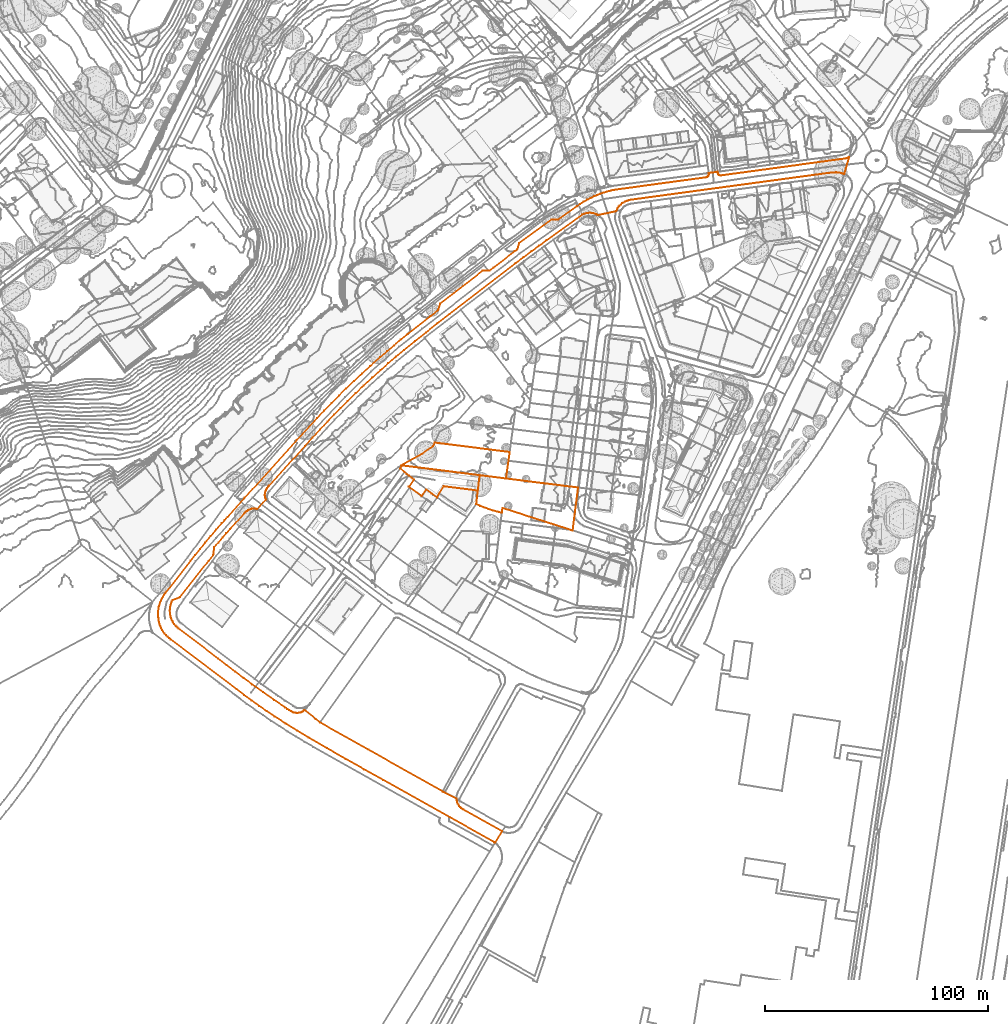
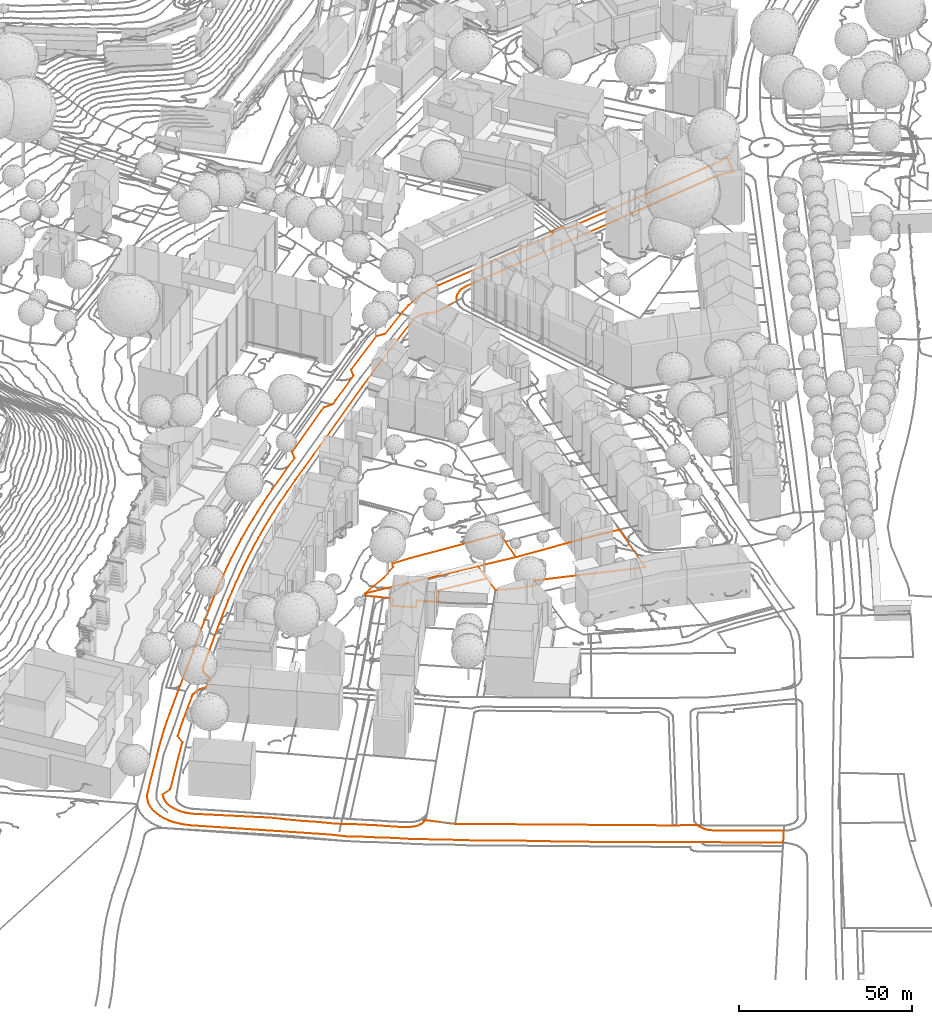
# Not in any storey, part 119 of 494: 4 proxies.
"""IFC2X3 model written with IfcOpenShell, lengths in metres."""

from ifc_helpers import new_model, entity, si_unit, frame, origin_with_axes, place, context, subcontext, project, element, save


model = new_model("IFC2X3")

# Units and contexts
model_context = context("Model", 3, precision=1e-05, world=origin_with_axes())
body_context = subcontext(model_context, "Body", "Model", "MODEL_VIEW")
ifc_project = project(units=[si_unit("AREAUNIT", "SQUARE_METRE"), si_unit("LENGTHUNIT", "METRE")], contexts=[model_context])

# Proxies
proxy_1_placement = place(None, frame((371.2307320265, 51.8597160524, 502.4108303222), z_axis=(0.0, 0.0, 1.0), x_axis=(1.0, 0.0, 0.0)))
element("IfcBuildingElementProxy", 1, at=proxy_1_placement, Name="Roads Outline 120", ObjectType="NOTDEFINED", context=body_context, shape_type="GeometricCurveSet", body=[
    entity("IfcGeometricCurveSet", [entity("IfcPolyline", [entity("IfcCartesianPoint", [0.0, 0.0, 0.0]), entity("IfcCartesianPoint", [0.8710000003, 1.3130000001, -0.1217882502]), entity("IfcCartesianPoint", [0.9700000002, 1.301, -0.1211399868]), entity("IfcCartesianPoint", [1.3140000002, 1.2579999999, -0.1175275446]), entity("IfcCartesianPoint", [4.7250000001, 0.8289999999, -0.1139191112]), entity("IfcCartesianPoint", [35.6830000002, -3.071, -0.1133765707]), entity("IfcCartesianPoint", [34.8500000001, -9.9539999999, 0.003727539]), entity("IfcCartesianPoint", [32.8370000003, -9.7009999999, 0.0573204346]), entity("IfcCartesianPoint", [19.5490000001, -8.0319999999, -0.1189635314]), entity("IfcCartesianPoint", [17.4110000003, -11.2509999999, -0.1468187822]), entity("IfcCartesianPoint", [16.5780000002, -13.1170000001, -0.046251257]), entity("IfcCartesianPoint", [16.5130000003, -13.071, -0.0419122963]), entity("IfcCartesianPoint", [14.0820000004, -11.263, 0.0039351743]), entity("IfcCartesianPoint", [11.6690000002, -9.4310000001, 0.0304222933]), entity("IfcCartesianPoint", [9.6050000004, -12.3259999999, 0.0284235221]), entity("IfcCartesianPoint", [3.9100000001, -8.246, 0.1374620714]), entity("IfcCartesianPoint", [6.1600000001, -5.1040000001, 0.0393766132]), entity("IfcCartesianPoint", [5.037, -4.196, 0.0210365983]), entity("IfcCartesianPoint", [3.9180000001, -3.2830000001, 0.031877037]), entity("IfcCartesianPoint", [3.8680000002, -3.2420000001, 0.0338036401]), entity("IfcCartesianPoint", [3.8420000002, -3.22, 0.0348714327]), entity("IfcCartesianPoint", [2.8930000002, -2.436, 0.0925608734]), entity("IfcCartesianPoint", [1.9450000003, -1.6510000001, 0.0763706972]), entity("IfcCartesianPoint", [0.0, 0.0, 0.0])])]),
])
proxy_2_placement = place(None, frame((262.6497320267, -13.3092839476, 503.9024707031), z_axis=(0.0, 0.0, 1.0), x_axis=(1.0, 0.0, 0.0)))
element("IfcBuildingElementProxy", 2, at=proxy_2_placement, Name="Roads Outline 130", ObjectType="NOTDEFINED", context=body_context, shape_type="GeometricCurveSet", body=[
    entity("IfcGeometricCurveSet", [entity("IfcPolyline", [entity("IfcCartesianPoint", [0.5389999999, -4.061, -0.0057064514]), entity("IfcCartesianPoint", [0.2990000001, -3.0619999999, -0.0031480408]), entity("IfcCartesianPoint", [0.1290000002, -2.0489999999, -0.0013581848]), entity("IfcCartesianPoint", [0.0290000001, -1.0260000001, -0.0003053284]), entity("IfcCartesianPoint", [0.0, 0.0, 0.0]), entity("IfcCartesianPoint", [0.0419999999, 1.027, -0.0004421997]), entity("IfcCartesianPoint", [0.1540000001, 2.048, -0.0016213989]), entity("IfcCartesianPoint", [0.3360000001, 3.0589999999, -0.0035375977]), entity("IfcCartesianPoint", [0.588, 4.0549999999, -0.006362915]), entity("IfcCartesianPoint", [0.9019999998, 5.0149999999, -0.0105696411]), entity("IfcCartesianPoint", [1.2799999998, 5.9510000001, -0.0156337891]), entity("IfcCartesianPoint", [1.7209999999, 6.8600000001, -0.0074827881]), entity("IfcCartesianPoint", [2.2220000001, 7.737, 0.0223007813]), entity("IfcCartesianPoint", [2.7820000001, 8.578, 0.0317250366]), entity("IfcCartesianPoint", [3.3969999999, 9.379, 0.0104980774]), entity("IfcCartesianPoint", [14.6850000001, 23.824, -0.2887487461]), entity("IfcCartesianPoint", [16.7069999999, 26.3959999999, -0.312572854]), entity("IfcCartesianPoint", [18.753, 28.95, -0.3337791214]), entity("IfcCartesianPoint", [21.125, 31.8629999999, -0.3668677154]), entity("IfcCartesianPoint", [23.537, 34.743, -0.389519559]), entity("IfcCartesianPoint", [26.0490000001, 37.659, -0.404293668]), entity("IfcCartesianPoint", [28.6000000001, 40.54, -0.4300851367]), entity("IfcCartesianPoint", [29.8790000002, 41.9780000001, -0.4436543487]), entity("IfcCartesianPoint", [31.1639999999, 43.412, -0.4517685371]), entity("IfcCartesianPoint", [38.8859999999, 51.9820000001, -0.5570350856]), entity("IfcCartesianPoint", [62.2439999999, 77.95, -0.9462583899]), entity("IfcCartesianPoint", [71.3479999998, 87.804, -1.047282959]), entity("IfcCartesianPoint", [74.5600000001, 91.182, -1.0667415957]), entity("IfcCartesianPoint", [77.8110000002, 94.5220000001, -1.1188040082]), entity("IfcCartesianPoint", [81.1000000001, 97.8260000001, -1.1458437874]), entity("IfcCartesianPoint", [84.4270000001, 101.091, -1.1758217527]), entity("IfcCartesianPoint", [87.9249999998, 104.4450000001, -1.2241489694]), entity("IfcCartesianPoint", [91.463, 107.7579999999, -1.2389045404]), entity("IfcCartesianPoint", [95.04, 111.0279999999, -1.2677067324]), entity("IfcCartesianPoint", [99.5610000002, 115.023, -1.3373171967]), entity("IfcCartesianPoint", [102.648, 117.71, -1.4421208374]), entity("IfcCartesianPoint", [105.77, 120.3559999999, -1.4389836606]), entity("IfcCartesianPoint", [108.8709999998, 122.916, -1.4814820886]), entity("IfcCartesianPoint", [112.0049999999, 125.4369999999, -1.5095543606]), entity("IfcCartesianPoint", [122.23, 133.4990000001, -1.6741860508]), entity("IfcCartesianPoint", [125.645, 136.1599999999, -1.7210046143]), entity("IfcCartesianPoint", [126.54, 139.1200000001, -1.6750229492]), entity("IfcCartesianPoint", [145.6660000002, 153.892, -1.5919867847]), entity("IfcCartesianPoint", [148.3160000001, 153.9480000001, -1.6231636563]), entity("IfcCartesianPoint", [148.6979999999, 153.966, -1.6299466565]), entity("IfcCartesianPoint", [150.4720000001, 155.3049999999, -1.6230563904]), entity("IfcCartesianPoint", [159.9980000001, 162.5600000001, -1.4778877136]), entity("IfcCartesianPoint", [161.1209999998, 163.4099999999, -1.4672502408]), entity("IfcCartesianPoint", [162.0010000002, 166.3049999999, -1.4271675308]), entity("IfcCartesianPoint", [176.5389999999, 176.8570000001, -1.1856304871]), entity("IfcCartesianPoint", [179.5350000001, 176.8149999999, -1.2609590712]), entity("IfcCartesianPoint", [187.8029999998, 182.727, -1.2084698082]), entity("IfcCartesianPoint", [187.9010000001, 182.798, -1.207948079]), entity("IfcCartesianPoint", [189.3670000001, 183.814, -1.205377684]), entity("IfcCartesianPoint", [190.875, 184.7679999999, -1.1448787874]), entity("IfcCartesianPoint", [192.4210000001, 185.6580000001, -1.1014199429]), entity("IfcCartesianPoint", [194.003, 186.4820000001, -1.1207409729]), entity("IfcCartesianPoint", [195.6179999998, 187.24, -1.0789103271]), entity("IfcCartesianPoint", [197.0150000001, 187.8389999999, -1.0614479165]), entity("IfcCartesianPoint", [198.432, 188.3859999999, -0.9990072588]), entity("IfcCartesianPoint", [199.8679999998, 188.8810000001, -1.0210383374]), entity("IfcCartesianPoint", [201.3220000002, 189.324, -1.0568580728]), entity("IfcCartesianPoint", [202.5920000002, 189.6629999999, -1.0988468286]), entity("IfcCartesianPoint", [203.8730000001, 189.963, -1.1604785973]), entity("IfcCartesianPoint", [205.162, 190.2220000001, -1.1974686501]), entity("IfcCartesianPoint", [245.406, 195.6780000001, -1.3970805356]), entity("IfcCartesianPoint", [245.679, 195.7239999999, -1.3938794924]), entity("IfcCartesianPoint", [245.9479999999, 195.787, -1.3933901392]), entity("IfcCartesianPoint", [246.2420000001, 195.875, -1.3944380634]), entity("IfcCartesianPoint", [246.5290000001, 195.983, -1.3974448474]), entity("IfcCartesianPoint", [246.7560000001, 196.24, -1.4018073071]), entity("IfcCartesianPoint", [246.9300000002, 196.5360000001, -1.4024283]), entity("IfcCartesianPoint", [247.0439999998, 196.8589999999, -1.401013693]), entity("IfcCartesianPoint", [247.0899999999, 197.1300000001, -1.3993700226]), entity("IfcCartesianPoint", [247.094, 197.4040000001, -1.3993498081]), entity("IfcCartesianPoint", [247.0559999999, 197.676, -1.4012136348]), entity("IfcCartesianPoint", [249.9249999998, 198.0619999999, -1.3964670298]), entity("IfcCartesianPoint", [251.04, 198.2120000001, -1.4066033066]), entity("IfcCartesianPoint", [251.0789999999, 197.8629999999, -1.4155004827]), entity("IfcCartesianPoint", [251.105, 197.6089999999, -1.4106553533]), entity("IfcCartesianPoint", [251.1809999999, 197.365, -1.4068772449]), entity("IfcCartesianPoint", [251.304, 197.1410000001, -1.4055264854]), entity("IfcCartesianPoint", [251.4700000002, 196.9469999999, -1.4057552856]), entity("IfcCartesianPoint", [251.7110000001, 196.7649999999, -1.3981821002]), entity("IfcCartesianPoint", [251.9890000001, 196.6459999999, -1.3943791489]), entity("IfcCartesianPoint", [252.287, 196.5959999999, -1.3949076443]), entity("IfcCartesianPoint", [252.588, 196.6170000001, -1.3989694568]), entity("IfcCartesianPoint", [307.77, 204.1310000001, -1.5309644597]), entity("IfcCartesianPoint", [308.358, 204.2379999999, -1.5325805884]), entity("IfcCartesianPoint", [308.9339999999, 204.399, -1.5214086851]), entity("IfcCartesianPoint", [309.4920000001, 204.612, -1.5099840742]), entity("IfcCartesianPoint", [310.0290000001, 204.875, -1.5042742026]), entity("IfcCartesianPoint", [310.02, 204.8459999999, -1.5038891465]), entity("IfcCartesianPoint", [308.4300000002, 199.466, -1.4654980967]), entity("IfcCartesianPoint", [307.7850000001, 197.2849999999, -1.4686628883]), entity("IfcCartesianPoint", [307.0890000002, 197.5290000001, -1.4753664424]), entity("IfcCartesianPoint", [306.378, 197.723, -1.4743528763]), entity("IfcCartesianPoint", [305.605, 197.8729999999, -1.4355913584]), entity("IfcCartesianPoint", [304.8229999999, 197.9620000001, -1.43273974]), entity("IfcCartesianPoint", [304.0359999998, 197.9909999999, -1.4225772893]), entity("IfcCartesianPoint", [302.9619999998, 197.9369999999, -1.411702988]), entity("IfcCartesianPoint", [301.889, 197.8540000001, -1.4042682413]), entity("IfcCartesianPoint", [300.9449999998, 197.754, -1.390009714]), entity("IfcCartesianPoint", [300.0040000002, 197.632, -1.374994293]), entity("IfcCartesianPoint", [212.2179999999, 185.7109999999, -1.1163374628]), entity("IfcCartesianPoint", [211.4890000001, 185.601, -1.1201888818]), entity("IfcCartesianPoint", [210.7740000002, 185.425, -1.1268597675]), entity("IfcCartesianPoint", [210.0780000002, 185.1839999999, -1.1307669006]), entity("IfcCartesianPoint", [209.4070000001, 184.879, -1.1339074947]), entity("IfcCartesianPoint", [208.767, 184.514, -1.1492976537]), entity("IfcCartesianPoint", [208.1639999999, 184.091, -1.1642729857]), entity("IfcCartesianPoint", [207.602, 183.6140000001, -1.1762166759]), entity("IfcCartesianPoint", [207.0860000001, 183.088, -1.2022929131]), entity("IfcCartesianPoint", [206.622, 182.5160000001, -1.2117000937]), entity("IfcCartesianPoint", [206.2119999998, 181.9040000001, -1.2202164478]), entity("IfcCartesianPoint", [205.8599999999, 181.257, -1.2280841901]), entity("IfcCartesianPoint", [205.5690000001, 180.5800000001, -1.2301342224]), entity("IfcCartesianPoint", [197.3459999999, 178.8189999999, -1.2309603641]), entity("IfcCartesianPoint", [197.2319999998, 178.8859999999, -1.23833654]), entity("IfcCartesianPoint", [196.9049999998, 179.064, -1.2546378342]), entity("IfcCartesianPoint", [196.5690000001, 179.2239999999, -1.2700916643]), entity("IfcCartesianPoint", [195.8799999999, 179.49, -1.3008048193]), entity("IfcCartesianPoint", [195.1680000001, 179.683, -1.2893156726]), entity("IfcCartesianPoint", [194.4399999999, 179.801, -1.2727682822]), entity("IfcCartesianPoint", [193.7030000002, 179.844, -1.2947818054]), entity("IfcCartesianPoint", [192.9649999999, 179.811, -1.3172970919]), entity("IfcCartesianPoint", [192.236, 179.7010000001, -1.2876391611]), entity("IfcCartesianPoint", [191.5210000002, 179.517, -1.2058709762]), entity("IfcCartesianPoint", [190.8289999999, 179.2609999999, -1.239208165]), entity("IfcCartesianPoint", [190.1669999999, 178.9339999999, -1.2377140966]), entity("IfcCartesianPoint", [174.2829999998, 167.5020000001, -1.3594583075]), entity("IfcCartesianPoint", [170.9100000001, 165.051, -1.3985934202]), entity("IfcCartesianPoint", [167.5460000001, 162.5859999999, -1.4843606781]), entity("IfcCartesianPoint", [163.946, 159.9210000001, -1.5736200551]), entity("IfcCartesianPoint", [160.3590000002, 157.2390000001, -1.6522851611]), entity("IfcCartesianPoint", [130.8420000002, 134.5, -1.7581777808]), entity("IfcCartesianPoint", [125.4679999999, 130.3670000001, -1.6538557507]), entity("IfcCartesianPoint", [120.1299999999, 126.1880000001, -1.5851305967]), entity("IfcCartesianPoint", [115.2439999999, 122.2949999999, -1.5386686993]), entity("IfcCartesianPoint", [110.3909999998, 118.362, -1.4379433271]), entity("IfcCartesianPoint", [106.8119999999, 115.3700000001, -1.434979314]), entity("IfcCartesianPoint", [103.2710000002, 112.334, -1.358463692]), entity("IfcCartesianPoint", [99.7680000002, 109.253, -1.3120700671]), entity("IfcCartesianPoint", [95.9840000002, 105.8370000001, -1.2684722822]), entity("IfcCartesianPoint", [92.247, 102.3700000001, -1.2416182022]), entity("IfcCartesianPoint", [88.5580000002, 98.8530000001, -1.1760768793]), entity("IfcCartesianPoint", [84.9819999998, 95.3670000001, -1.1499269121]), entity("IfcCartesianPoint", [81.952, 92.331, -1.1150658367]), entity("IfcCartesianPoint", [78.9500000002, 89.2679999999, -1.0646633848]), entity("IfcCartesianPoint", [75.9759999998, 86.1780000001, -1.0406971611]), entity("IfcCartesianPoint", [72.5720000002, 82.5689999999, -0.9759327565]), entity("IfcCartesianPoint", [69.2059999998, 78.9240000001, -0.9529725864]), entity("IfcCartesianPoint", [65.878, 75.2439999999, -0.8854043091]), entity("IfcCartesianPoint", [49.8810000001, 57.476, -0.6916893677]), entity("IfcCartesianPoint", [49.4330000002, 56.95, -0.7016132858]), entity("IfcCartesianPoint", [49.0150000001, 56.4010000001, -0.7040164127]), entity("IfcCartesianPoint", [48.6260000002, 55.8300000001, -0.6960271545]), entity("IfcCartesianPoint", [48.3689999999, 55.3770000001, -0.6966297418]), entity("IfcCartesianPoint", [48.162, 54.898, -0.6920591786]), entity("IfcCartesianPoint", [48.0090000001, 54.3999999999, -0.6790054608]), entity("IfcCartesianPoint", [47.9109999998, 53.888, -0.6686703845]), entity("IfcCartesianPoint", [47.8670000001, 53.2890000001, -0.6710667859]), entity("IfcCartesianPoint", [47.8999999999, 52.6899999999, -0.6684532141]), entity("IfcCartesianPoint", [48.0070000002, 52.0989999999, -0.661716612]), entity("IfcCartesianPoint", [48.1499999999, 51.6669999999, -0.6625929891]), entity("IfcCartesianPoint", [48.3560000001, 51.2609999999, -0.6663236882]), entity("IfcCartesianPoint", [44.5070000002, 46.9510000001, -0.4791822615]), entity("IfcCartesianPoint", [44.1630000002, 47.03, -0.471758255]), entity("IfcCartesianPoint", [43.8139999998, 47.088, -0.461321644]), entity("IfcCartesianPoint", [43.2769999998, 47.132, -0.4736802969]), entity("IfcCartesianPoint", [42.7379999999, 47.1240000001, -0.5140459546]), entity("IfcCartesianPoint", [42.2030000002, 47.0649999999, -0.5506632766]), entity("IfcCartesianPoint", [41.6749999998, 46.9550000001, -0.5837705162]), entity("IfcCartesianPoint", [41.0580000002, 46.7320000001, -0.5934661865]), entity("IfcCartesianPoint", [40.4670000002, 46.449, -0.590524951]), entity("IfcCartesianPoint", [39.9070000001, 46.108, -0.549899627]), entity("IfcCartesianPoint", [39.4410000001, 45.76, -0.5001099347]), entity("IfcCartesianPoint", [39.0070000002, 45.3729999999, -0.4728199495]), entity("IfcCartesianPoint", [38.6090000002, 44.9480000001, -0.4723971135]), entity("IfcCartesianPoint", [32.2650000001, 37.919, -0.3886627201]), entity("IfcCartesianPoint", [30.5890000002, 36.0560000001, -0.3865621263]), entity("IfcCartesianPoint", [28.932, 34.175, -0.3755623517]), entity("IfcCartesianPoint", [27.057, 31.9990000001, -0.3719368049]), entity("IfcCartesianPoint", [25.2089999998, 29.801, -0.3797983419]), entity("IfcCartesianPoint", [24.7680000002, 26.3870000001, -0.3642270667]), entity("IfcCartesianPoint", [22.6290000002, 23.7080000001, -0.3316242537]), entity("IfcCartesianPoint", [9.767, 7.385, -0.2027637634]), entity("IfcCartesianPoint", [6.5219999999, 6.135, -0.1378643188]), entity("IfcCartesianPoint", [6.1519999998, 5.3899999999, -0.1272841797]), entity("IfcCartesianPoint", [5.844, 4.6170000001, -0.1184769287]), entity("IfcCartesianPoint", [5.6009999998, 3.821, -0.1115283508]), entity("IfcCartesianPoint", [5.4240000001, 3.007, -0.1022902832]), entity("IfcCartesianPoint", [5.3149999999, 2.183, -0.0947958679]), entity("IfcCartesianPoint", [5.273, 1.351, -0.0919081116]), entity("IfcCartesianPoint", [5.301, 0.52, -0.0938332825]), entity("IfcCartesianPoint", [5.3960000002, -0.307, -0.1003651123]), entity("IfcCartesianPoint", [5.5550000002, -1.1000000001, -0.1102129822]), entity("IfcCartesianPoint", [5.7769999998, -1.8770000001, -0.1165610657]), entity("IfcCartesianPoint", [6.0610000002, -2.6340000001, -0.1246820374]), entity("IfcCartesianPoint", [6.4040000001, -3.3659999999, -0.1344901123]), entity("IfcCartesianPoint", [6.8050000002, -4.068, -0.1387966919]), entity("IfcCartesianPoint", [7.2609999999, -4.736, -0.1400491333]), entity("IfcCartesianPoint", [7.7689999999, -5.365, -0.1446363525]), entity("IfcCartesianPoint", [8.2059999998, -5.834, -0.1516245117]), entity("IfcCartesianPoint", [8.673, -6.274, -0.161880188]), entity("IfcCartesianPoint", [9.1669999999, -6.682, -0.1792775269]), entity("IfcCartesianPoint", [27.0019999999, -20.2, 0.4338944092]), entity("IfcCartesianPoint", [30.7650000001, -23.1359999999, 0.2691181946]), entity("IfcCartesianPoint", [34.5559999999, -26.0360000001, 0.1574472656]), entity("IfcCartesianPoint", [38.3760000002, -28.8999999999, 0.1595686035]), entity("IfcCartesianPoint", [42.2220000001, -31.726, -0.0705377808]), entity("IfcCartesianPoint", [47.1069999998, -35.233, 0.1522293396]), entity("IfcCartesianPoint", [52.0359999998, -38.679, 0.1451571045]), entity("IfcCartesianPoint", [57.0060000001, -42.064, -0.076173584]), entity("IfcCartesianPoint", [57.9389999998, -42.6799999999, -0.0904303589]), entity("IfcCartesianPoint", [58.8859999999, -43.2749999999, -0.1092797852]), entity("IfcCartesianPoint", [59.574, -43.6880000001, -0.113998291]), entity("IfcCartesianPoint", [60.2689999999, -44.0900000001, -0.084644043]), entity("IfcCartesianPoint", [60.8459999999, -44.2849999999, -0.0629230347]), entity("IfcCartesianPoint", [61.4410000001, -44.4140000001, -0.0427495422]), entity("IfcCartesianPoint", [62.0460000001, -44.476, -0.0716689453]), entity("IfcCartesianPoint", [62.6549999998, -44.4709999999, -0.1064934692]), entity("IfcCartesianPoint", [63.2590000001, -44.398, -0.1310825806]), entity("IfcCartesianPoint", [63.852, -44.2579999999, -0.1253037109]), entity("IfcCartesianPoint", [64.3730000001, -44.075, -0.0984014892]), entity("IfcCartesianPoint", [64.8730000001, -43.8400000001, -0.0760159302]), entity("IfcCartesianPoint", [65.3470000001, -43.5560000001, -0.0562562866]), entity("IfcCartesianPoint", [65.79, -43.2250000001, -0.0542199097]), entity("IfcCartesianPoint", [70.727, -47.2690000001, -0.3901565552]), entity("IfcCartesianPoint", [72.6000000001, -48.804, -0.419498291]), entity("IfcCartesianPoint", [94.3870000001, -61.054, -0.8251239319]), entity("IfcCartesianPoint", [127.5630000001, -79.7039999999, -1.4666577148]), entity("IfcCartesianPoint", [127.969, -79.915, -1.4717128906]), entity("IfcCartesianPoint", [133.898, -83.0020000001, -1.5454748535]), entity("IfcCartesianPoint", [133.9479999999, -83.4979999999, -1.5460974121]), entity("IfcCartesianPoint", [134.0380000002, -83.9890000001, -1.5472180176]), entity("IfcCartesianPoint", [134.1699999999, -84.47, -1.5488615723]), entity("IfcCartesianPoint", [134.409, -85.0959999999, -1.5518374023]), entity("IfcCartesianPoint", [134.7170000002, -85.6910000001, -1.5556723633]), entity("IfcCartesianPoint", [135.0899999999, -86.2479999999, -1.5603166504]), entity("IfcCartesianPoint", [135.5219999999, -86.7590000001, -1.5656955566]), entity("IfcCartesianPoint", [136.0099999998, -87.219, -1.571757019]), entity("IfcCartesianPoint", [136.5449999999, -87.621, -1.5784025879]), entity("IfcCartesianPoint", [137.1230000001, -87.9609999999, -1.5855993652]), entity("IfcCartesianPoint", [154.372, -97.6070000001, -1.7628184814]), entity("IfcCartesianPoint", [151.2000000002, -102.7220000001, -1.8722419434]), entity("IfcCartesianPoint", [150.9610000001, -102.577, -1.8752542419]), entity("IfcCartesianPoint", [150.7140000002, -102.4450000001, -1.8783673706]), entity("IfcCartesianPoint", [130.7390000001, -91.253, -1.5061721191]), entity("IfcCartesianPoint", [100.9899999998, -74.55, -1.0760565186]), entity("IfcCartesianPoint", [92.517, -69.8729999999, -0.7815148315]), entity("IfcCartesianPoint", [84.0789999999, -65.1329999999, -0.4512685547]), entity("IfcCartesianPoint", [75.7850000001, -60.3910000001, -0.4832256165]), entity("IfcCartesianPoint", [67.5279999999, -55.5870000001, -0.1434680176]), entity("IfcCartesianPoint", [62.3900000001, -52.469, -0.0928330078]), entity("IfcCartesianPoint", [57.2850000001, -49.297, -0.0781489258]), entity("IfcCartesianPoint", [52.2140000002, -46.071, 0.1479872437]), entity("IfcCartesianPoint", [48.736, -43.7290000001, 0.1020310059]), entity("IfcCartesianPoint", [45.2910000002, -41.3389999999, 0.1114031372]), entity("IfcCartesianPoint", [41.8790000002, -38.9010000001, -0.0672614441]), entity("IfcCartesianPoint", [38.5010000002, -36.4169999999, 0.1579397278]), entity("IfcCartesianPoint", [35.1579999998, -33.8870000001, 0.1714831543]), entity("IfcCartesianPoint", [5.7119999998, -11.5319999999, -0.1147023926]), entity("IfcCartesianPoint", [4.932, -10.953, -0.0684622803]), entity("IfcCartesianPoint", [4.199, -10.3160000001, -0.0253332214]), entity("IfcCartesianPoint", [3.5159999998, -9.625, 0.0063907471]), entity("IfcCartesianPoint", [2.8879999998, -8.885, 0.0280664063]), entity("IfcCartesianPoint", [2.318, -8.098, 0.0280078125]), entity("IfcCartesianPoint", [1.8100000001, -7.2709999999, -0.0021918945]), entity("IfcCartesianPoint", [1.412, -6.503, -0.0174022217]), entity("IfcCartesianPoint", [1.0660000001, -5.709, -0.0127667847]), entity("IfcCartesianPoint", [0.7749999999, -4.8940000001, -0.0088681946]), entity("IfcCartesianPoint", [0.5389999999, -4.061, -0.0057064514])])]),
])
proxy_3_placement = place(None, frame((405.3527320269, 35.8787160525, 502.2942952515), z_axis=(0.0, 0.0, 1.0), x_axis=(1.0, 0.0, 0.0)))
element("IfcBuildingElementProxy", 3, at=proxy_3_placement, Name="Cadastre 171", ObjectType="NOTDEFINED", context=body_context, shape_type="GeometricCurveSet", body=[
    entity("IfcGeometricCurveSet", [entity("IfcPolyline", [entity("IfcCartesianPoint", [0.0, 0.0, 0.0]), entity("IfcCartesianPoint", [1.5609999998, 12.9099999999, 0.0031585]), entity("IfcCartesianPoint", [13.3899999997, 11.4199999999, -0.0297459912]), entity("IfcCartesianPoint", [30.6839999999, 9.263, 0.5772822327]), entity("IfcCartesianPoint", [39.7429999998, 8.1329999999, 0.8357436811]), entity("IfcCartesianPoint", [41.926, 7.8599999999, 0.7536928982]), entity("IfcCartesianPoint", [45.6969999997, 7.3899999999, 0.8008294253]), entity("IfcCartesianPoint", [43.2549999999, -11.8700000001, 0.1057760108]), entity("IfcCartesianPoint", [42.5649999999, -11.6500000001, 0.0431065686]), entity("IfcCartesianPoint", [11.7789999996, -1.8100000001, 0.2483550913]), entity("IfcCartesianPoint", [11.5179999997, -3.9300000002, 0.1378624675]), entity("IfcCartesianPoint", [9.5399999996, -3.4610000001, -0.0164056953]), entity("IfcCartesianPoint", [7.5819999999, -2.916, -0.0810685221]), entity("IfcCartesianPoint", [5.6459999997, -2.297, -0.100402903]), entity("IfcCartesianPoint", [3.7349999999, -1.6040000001, -0.071264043]), entity("IfcCartesianPoint", [1.852, -0.838, -0.100875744]), entity("IfcCartesianPoint", [0.0, 0.0, 0.0])])]),
])
proxy_4_placement = place(None, frame((371.656732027, 53.2287160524, 502.2868367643), z_axis=(0.0, 0.0, 1.0), x_axis=(1.0, 0.0, 0.0)))
element("IfcBuildingElementProxy", 4, at=proxy_4_placement, Name="Cadastre 177", ObjectType="NOTDEFINED", context=body_context, shape_type="GeometricCurveSet", body=[
    entity("IfcGeometricCurveSet", [entity("IfcPolyline", [entity("IfcCartesianPoint", [0.0, 0.0, 0.0]), entity("IfcCartesianPoint", [9.1299999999, 5.0900000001, -0.7620405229]), entity("IfcCartesianPoint", [14.3289999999, 8.5900000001, -0.8443470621]), entity("IfcCartesianPoint", [15.0699999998, 10.2, -0.9061572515]), entity("IfcCartesianPoint", [20.5889999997, 9.51, -0.4741197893]), entity("IfcCartesianPoint", [48.7259999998, 5.98, 0.3206853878]), entity("IfcCartesianPoint", [48.1859999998, 2.03, 0.2102183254]), entity("IfcCartesianPoint", [47.0859999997, -5.9299999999, -0.0222875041]), entity("IfcCartesianPoint", [35.2569999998, -4.4399999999, 0.0106169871]), entity("IfcCartesianPoint", [4.2989999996, -0.54, 0.0100744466]), entity("IfcCartesianPoint", [0.0, 0.0, 0.0])])]),
])

save(model, "model.ifc")
